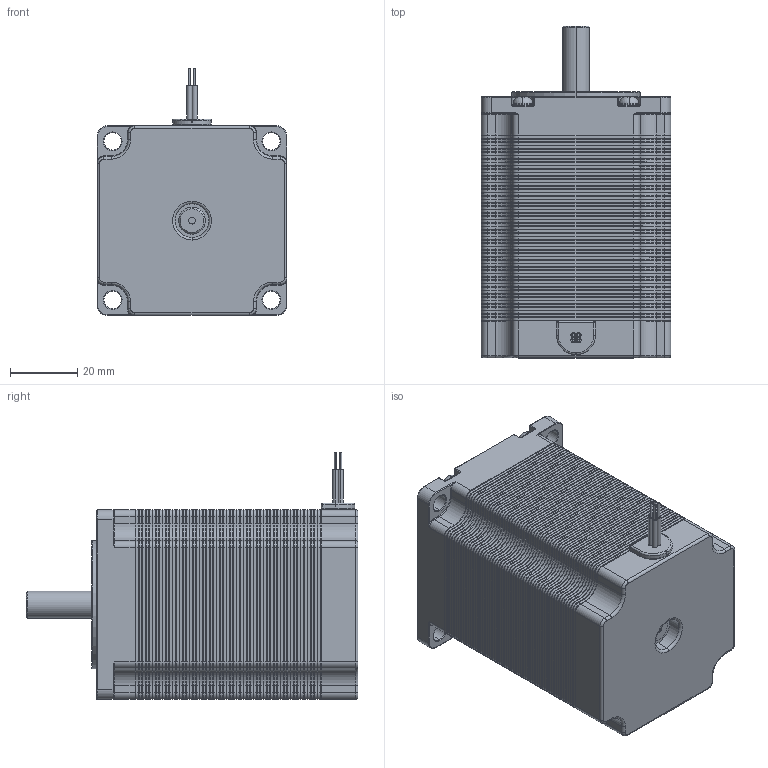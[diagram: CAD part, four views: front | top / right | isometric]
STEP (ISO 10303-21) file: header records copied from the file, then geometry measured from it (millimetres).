
FILE_DESCRIPTION (( 'STEP AP214' ), '1' );
FILE_NAME ('Nema 23 Stepper Motor length 78mm.STEP', '2017-12-10T23:29:15', ( '' ), ( '' ), 'SwSTEP 2.0', 'SolidWorks 2016', '' );
FILE_SCHEMA (( 'AUTOMOTIVE_DESIGN' ));
Length unit declared in the file: millimetre
Products named in the file (1): Nema 23 Stepper Motor length 78mm
Bounding box: 56.3 x 98.5 x 73.3 mm (x, y, z)
Volume: 224241.8 mm3; surface area: 342561.3 mm2
Topology: 71 solids, 71 shells, 4544 faces, 10328 edges, 5912 vertices
Faces by surface type: plane 2260, cone 1348, cylinder 822, torus 94, sphere 12, bspline 8
Entity records: 170036 total; most frequent: DIRECTION 22448, CARTESIAN_POINT 21213, ORIENTED_EDGE 20616, EDGE_CURVE 10308, AXIS2_PLACEMENT_3D 7675, LINE 7098, VECTOR 7098, VERTEX_POINT 5912
